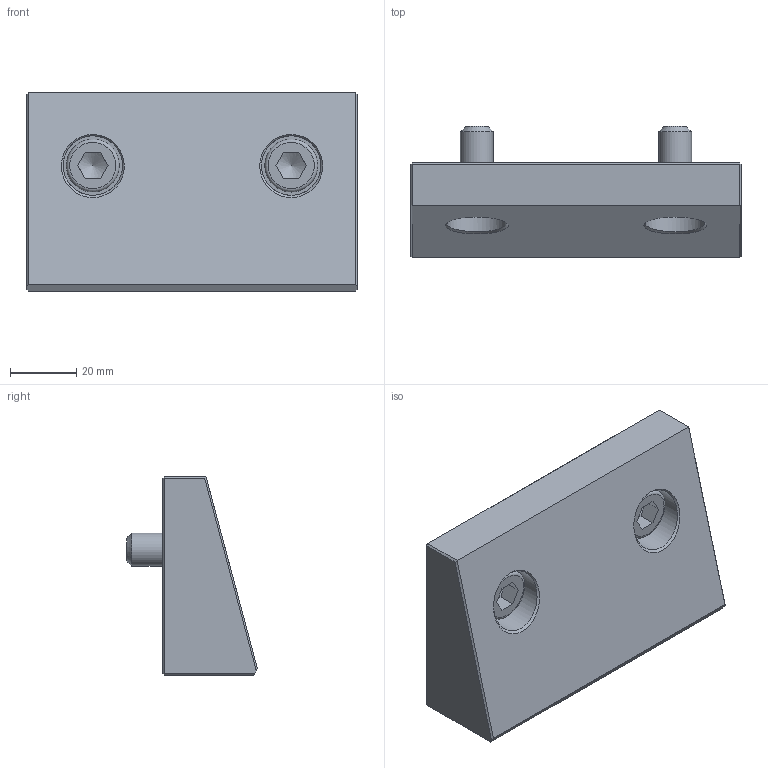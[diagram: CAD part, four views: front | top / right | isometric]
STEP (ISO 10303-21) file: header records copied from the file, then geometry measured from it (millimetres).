
FILE_DESCRIPTION(('STEP AP214'), '1');
FILE_NAME('BB.VS.100.70.030', '', ('UNSPECIFIED'), ('UNSPECIFIED'), 'C3D Converter', 'C3D Toolkit', '');
FILE_SCHEMA(('AUTOMOTIVE_DESIGN { 1 0 10303 214 3 1 1}'));
Length unit declared in the file: millimetre
Products named in the file (1): BB.VS.100.70.030 СБ
Bounding box: 100 x 39.56 x 60 mm (x, y, z)
Volume: 123726.9 mm3; surface area: 22743.4 mm2
Topology: 1 solids, 1 shells, 63 faces, 135 edges, 82 vertices
Faces by surface type: plane 41, cone 8, cylinder 8, torus 4, bspline 2
Full cylindrical faces by diameter (mm): 10 x2, 11 x2, 16 x2, 18 x2
Entity records: 3282 total; most frequent: CARTESIAN_POINT 1507, DIRECTION 241, ORIENTED_EDGE 222, EDGE_CURVE 111, EDGE_LOOP 93, AXIS2_PLACEMENT_3D 86, VERTEX_POINT 80, LINE 69
